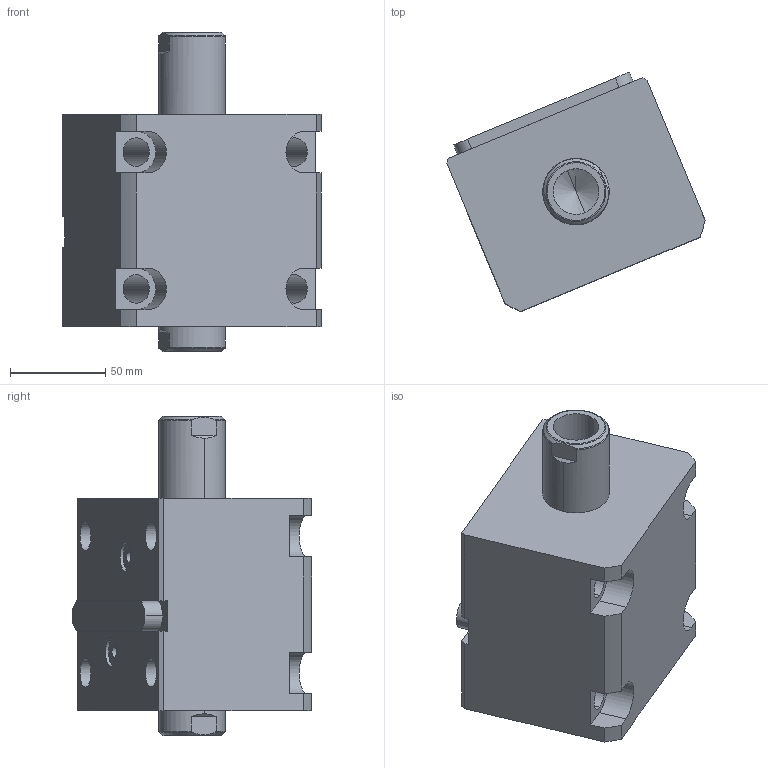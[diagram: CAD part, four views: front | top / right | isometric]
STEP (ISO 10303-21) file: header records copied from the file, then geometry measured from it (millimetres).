
FILE_DESCRIPTION (( 'STEP AP214' ), '1' );
FILE_NAME ('chtb-lwm63x30n_asm.STEP', '2018-05-22T02:14:05', ( 'Windows' ), ( 'Microsoft' ), 'SwSTEP 2.0', 'SolidWorks 2015', '' );
FILE_SCHEMA (( 'AUTOMOTIVE_DESIGN' ));
Length unit declared in the file: millimetre
Products named in the file (5): CHTB-SW63X30NHSG; CHTB-LWM63X30NBT; CHTB-LA63PJ; CHTB-63QG; chtb-lwm63x30n_asm
Assembly tree (4 placements, depth 2):
  chtb-lwm63x30n_asm
    CHTB-63QG
    CHTB-LA63PJ
    CHTB-LWM63X30NBT
    CHTB-SW63X30NHSG
Bounding box: 135.77 x 126.06 x 168 mm (x, y, z)
Volume: 1029097.2 mm3; surface area: 154350.8 mm2
Topology: 4 solids, 4 shells, 186 faces, 543 edges, 367 vertices
Faces by surface type: cylinder 103, plane 47, bspline 12, cone 12, torus 12
Entity records: 18665 total; most frequent: CARTESIAN_POINT 13839, ORIENTED_EDGE 1070, DIRECTION 834, EDGE_CURVE 535, VERTEX_POINT 367, AXIS2_PLACEMENT_3D 318, EDGE_LOOP 212, LINE 198
